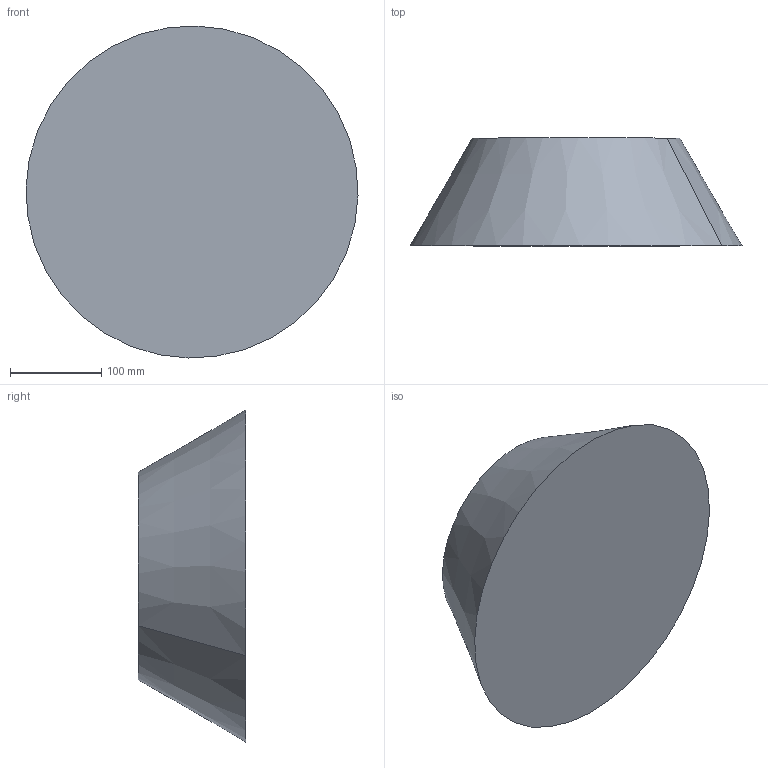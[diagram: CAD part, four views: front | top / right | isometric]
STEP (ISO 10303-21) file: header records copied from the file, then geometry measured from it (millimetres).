
FILE_DESCRIPTION(('CATIA V5 STEP Exchange'),'2;1');
FILE_NAME('C:\_Andres\UNIVERSIDAD\IQS\ASIGNATURAS\DAO\EXF\EXF-16172c\2inicio\Marinetto_Rohr_Ej09_v18.stp','2017-03-05T22:13:12+00:00',('none'),('none'),'CATIA Version 5-6 Release 2014 SP1 HF18','CATIA V5 STEP AP203','none');
FILE_SCHEMA(('CONFIG_CONTROL_DESIGN'));
Length unit declared in the file: millimetre
Products named in the file (1): Marinetto_Rohr_Ej09_v18
Bounding box: 363.9 x 118 x 363.9 mm (x, y, z)
Volume: 8248529.7 mm3; surface area: 273648.5 mm2
Topology: 1 solids, 2 shells, 8 faces, 12 edges, 8 vertices
Faces by surface type: plane 4, cone 2, cylinder 2
Entity records: 205 total; most frequent: CARTESIAN_POINT 27, DIRECTION 24, ORIENTED_EDGE 24, AXIS2_PLACEMENT_3D 15, EDGE_CURVE 12, ADVANCED_FACE 8, CIRCLE 8, EDGE_LOOP 8
